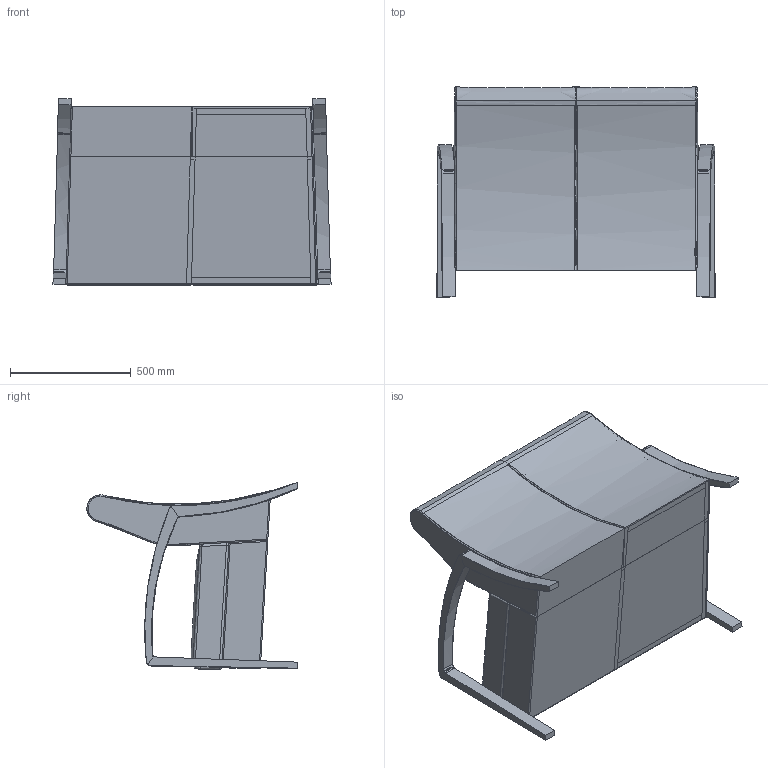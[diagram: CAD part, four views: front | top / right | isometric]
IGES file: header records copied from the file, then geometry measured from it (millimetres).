
Start section: SolidWorks IGES file using analytic representation for surfaces
Global section: file name: C:\Users\emanuel\Desktop\Siana_3D\Regina SG822D.IGS; native system: SolidWorks 2015; preprocessor: SolidWorks 2015; author: Emanuel; date: 151113.155537; units: millimetre
Bounding box: 1150 x 869.14 x 773.26 mm (x, y, z)
Surface area: 7480123.3 mm2 (no closed solid volume)
Topology: 0 solids, 0 shells, 526 faces, 6103 edges, 6083 vertices
Faces by surface type: bspline 390, revolution 136
